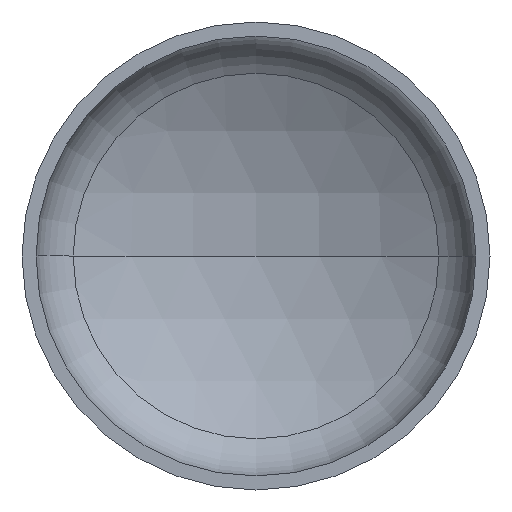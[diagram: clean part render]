
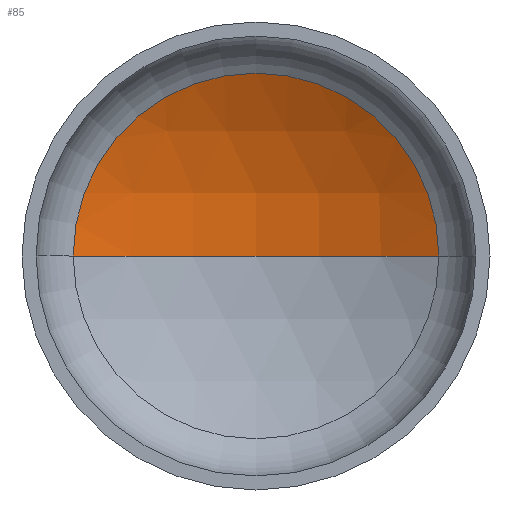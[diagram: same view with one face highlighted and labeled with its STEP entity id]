
A CAD part, front view. The second image highlights one B-rep face of the part: STEP entity #85.
In plain terms, the highlighted spherical face has radius 1600 mm.
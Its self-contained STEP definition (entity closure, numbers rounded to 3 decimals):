
#15 = DIRECTION ( 'NONE',  ( 1., 0., 0. ) ) ;
#16 = ORIENTED_EDGE ( 'NONE', *, *, #332, .T. ) ;
#17 = VERTEX_POINT ( 'NONE', #141 ) ;
#52 = AXIS2_PLACEMENT_3D ( 'NONE', #343, #212, #366 ) ;
#58 = VERTEX_POINT ( 'NONE', #331 ) ;
#61 = AXIS2_PLACEMENT_3D ( 'NONE', #126, #296, #160 ) ;
#71 = AXIS2_PLACEMENT_3D ( 'NONE', #387, #252, #15 ) ;
#84 = EDGE_LOOP ( 'NONE', ( #290, #16, #108 ) ) ;
#85 = ADVANCED_FACE ( 'NONE', ( #114 ), #227, .F. ) ;
#91 = DIRECTION ( 'NONE',  ( -1., 0., 0. ) ) ;
#99 = VERTEX_POINT ( 'NONE', #309 ) ;
#108 = ORIENTED_EDGE ( 'NONE', *, *, #328, .T. ) ;
#114 = FACE_OUTER_BOUND ( 'NONE', #84, .T. ) ;
#126 = CARTESIAN_POINT ( 'NONE',  ( 0., -1005.7, 0. ) ) ;
#141 = CARTESIAN_POINT ( 'NONE',  ( -781.395, 390.517, 0. ) ) ;
#157 = AXIS2_PLACEMENT_3D ( 'NONE', #246, #261, #91 ) ;
#160 = DIRECTION ( 'NONE',  ( 1., 0., 0. ) ) ;
#182 = CIRCLE ( 'NONE', #52, 1600. ) ;
#212 = DIRECTION ( 'NONE',  ( 0., 0., -1. ) ) ;
#227 = SPHERICAL_SURFACE ( 'NONE', #157, 1600. ) ;
#241 = CIRCLE ( 'NONE', #61, 1600. ) ;
#246 = CARTESIAN_POINT ( 'NONE',  ( 0., -1005.7, 0. ) ) ;
#252 = DIRECTION ( 'NONE',  ( 0., -1., 0. ) ) ;
#261 = DIRECTION ( 'NONE',  ( 0., 0., -1. ) ) ;
#290 = ORIENTED_EDGE ( 'NONE', *, *, #352, .F. ) ;
#296 = DIRECTION ( 'NONE',  ( 0., 0., 1. ) ) ;
#309 = CARTESIAN_POINT ( 'NONE',  ( 781.395, 390.517, 0. ) ) ;
#328 = EDGE_CURVE ( 'NONE', #99, #17, #364, .T. ) ;
#331 = CARTESIAN_POINT ( 'NONE',  ( 0., 594.3, 0. ) ) ;
#332 = EDGE_CURVE ( 'NONE', #58, #99, #182, .T. ) ;
#343 = CARTESIAN_POINT ( 'NONE',  ( 0., -1005.7, 0. ) ) ;
#352 = EDGE_CURVE ( 'NONE', #58, #17, #241, .T. ) ;
#364 = CIRCLE ( 'NONE', #71, 781.395 ) ;
#366 = DIRECTION ( 'NONE',  ( -1., 0., 0. ) ) ;
#387 = CARTESIAN_POINT ( 'NONE',  ( 0., 390.517, 0. ) ) ;
